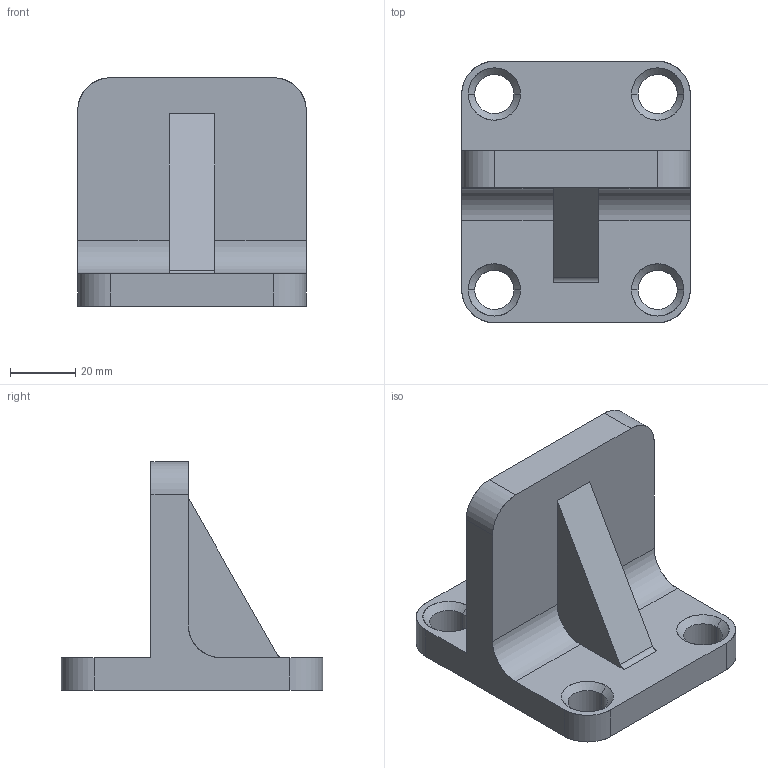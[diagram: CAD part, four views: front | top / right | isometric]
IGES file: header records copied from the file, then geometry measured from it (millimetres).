
Start section: SolidWorks IGES file using analytic representation for surfaces
Global section: file name: C:\Documents and Settings\Pc\Escritorio\Modelos 3D\Capítulo 1 (Estático)\PRACTICAS\P-4\P-4.IGS; native system: SolidWorks 2010; preprocessor: SolidWorks 2010; author: Pc; date: 100623.110715; units: millimetre
Bounding box: 70 x 80 x 70 mm (x, y, z)
Surface area: 24720.8 mm2 (no closed solid volume)
Topology: 0 solids, 0 shells, 38 faces, 558 edges, 558 vertices
Faces by surface type: revolution 25, bspline 13
